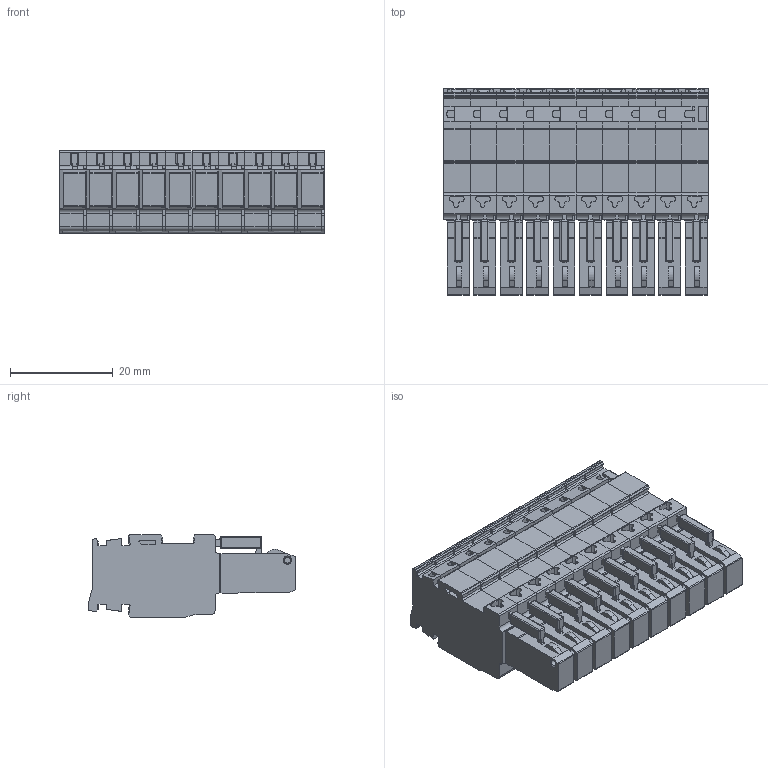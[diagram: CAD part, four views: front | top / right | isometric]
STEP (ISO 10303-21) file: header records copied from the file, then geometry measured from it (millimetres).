
FILE_DESCRIPTION (( 'STEP AP214' ), '1' );
FILE_NAME ('V01.TPA.08.0194.00.00.0.STEP', '2025-09-17T10:07:55', ( '' ), ( '' ), 'SwSTEP 2.0', 'SolidWorks 2022', '' );
FILE_SCHEMA (( 'AUTOMOTIVE_DESIGN' ));
Length unit declared in the file: millimetre
Products named in the file (3): V01.TPA.08.0194.00.00.0; V01.TPA.08.0185.00.00.0_VPR-P-2.5-M-R; V01.TPA.08.0185.00.00.0_VPR-P-2.5-1
Assembly tree (10 placements, depth 2):
  V01.TPA.08.0194.00.00.0
    V01.TPA.08.0185.00.00.0_VPR-P-2.5-1
    V01.TPA.08.0185.00.00.0_VPR-P-2.5-M-R  x9
Bounding box: 51.5 x 40.17 x 16 mm (x, y, z)
Volume: 20145.5 mm3; surface area: 28350.5 mm2
Topology: 10 solids, 10 shells, 5368 faces, 14915 edges, 9695 vertices
Faces by surface type: plane 3440, cylinder 1650, cone 122, sphere 80, bspline 76
Full cylindrical faces by diameter (mm): 0.6 x36, 1 x10, 1.1 x27, 1.2 x10, 1.3 x9, 1.5 x10, 1.52 x9, 1.532 x20, 1.693 x36, 2 x10
Entity records: 31373 total; most frequent: CARTESIAN_POINT 5824, ORIENTED_EDGE 5240, DIRECTION 5073, EDGE_CURVE 2620, LINE 1929, VECTOR 1929, VERTEX_POINT 1739, AXIS2_PLACEMENT_3D 1572
